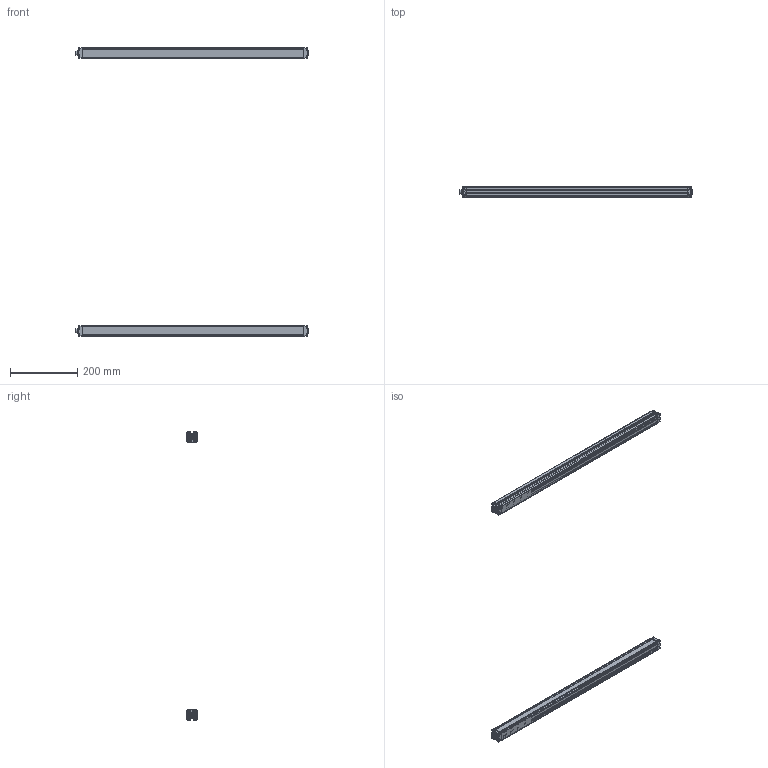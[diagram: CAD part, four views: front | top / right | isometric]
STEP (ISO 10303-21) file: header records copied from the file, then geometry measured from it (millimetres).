
FILE_DESCRIPTION((''),'2;1');
FILE_NAME('THW_ASM','2019-05-20T',('Administrator'),(''),'PRO/ENGINEER BY PARAMETRIC TECHNOLOGY CORPORATION, 2002180','PRO/ENGINEER BY PARAMETRIC TECHNOLOGY CORPORATION, 2002180','');
FILE_SCHEMA(('CONFIG_CONTROL_DESIGN'));
Length unit declared in the file: millimetre
Products named in the file (10): 11; 101; 102; 13; 12; 14; 16; ASM0002_ASM; 0000_ASM; THW_ASM
Assembly tree (10 placements, depth 4):
  THW_ASM
    0000_ASM  x2
      11
      101
      102
      13
      12
      ASM0002_ASM
        14
        16
Bounding box: 692 x 30.3 x 858.6 mm (x, y, z)
Volume: 418652.9 mm3; surface area: 463262.1 mm2
Topology: 10 solids, 14 shells, 1080 faces, 3010 edges, 1986 vertices
Faces by surface type: plane 764, cylinder 288, cone 28
Entity records: 17771 total; most frequent: CARTESIAN_POINT 3380, ORIENTED_EDGE 3006, DIRECTION 2885, EDGE_CURVE 1505, VECTOR 1177, LINE 1177, VERTEX_POINT 993, AXIS2_PLACEMENT_3D 854
